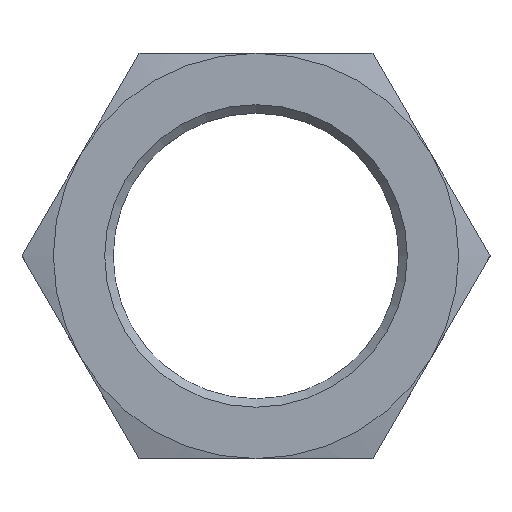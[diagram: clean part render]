
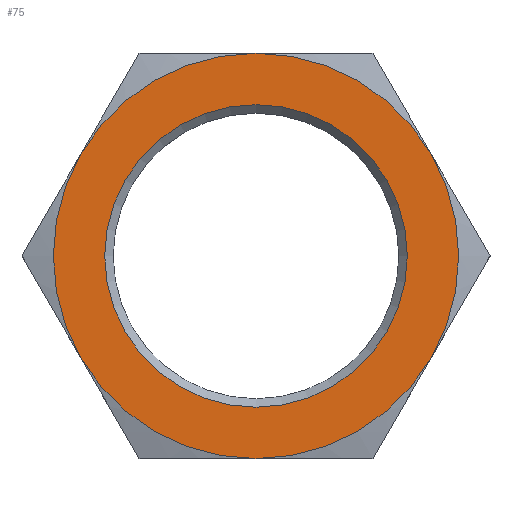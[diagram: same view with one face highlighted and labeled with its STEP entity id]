
A CAD part, top view. The second image highlights one B-rep face of the part: STEP entity #75.
In plain terms, the highlighted planar face has unit normal (0, 0, 1).
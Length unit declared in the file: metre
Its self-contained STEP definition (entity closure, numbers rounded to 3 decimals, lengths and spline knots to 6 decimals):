
#75 = ADVANCED_FACE( '', ( #156, #157 ), #158, .T. );
#156 = FACE_BOUND( '', #237, .T. );
#157 = FACE_OUTER_BOUND( '', #238, .T. );
#158 = PLANE( '', #239 );
#237 = EDGE_LOOP( '', ( #374 ) );
#238 = EDGE_LOOP( '', ( #375, #376, #377, #378, #379, #380 ) );
#239 = AXIS2_PLACEMENT_3D( '', #381, #382, #383 );
#374 = ORIENTED_EDGE( '', *, *, #475, .T. );
#375 = ORIENTED_EDGE( '', *, *, #462, .T. );
#376 = ORIENTED_EDGE( '', *, *, #480, .T. );
#377 = ORIENTED_EDGE( '', *, *, #500, .T. );
#378 = ORIENTED_EDGE( '', *, *, #452, .T. );
#379 = ORIENTED_EDGE( '', *, *, #501, .T. );
#380 = ORIENTED_EDGE( '', *, *, #493, .T. );
#381 = CARTESIAN_POINT( '', ( -0.020785, 0.012, 0.004 ) );
#382 = DIRECTION( '', ( 0., 0., 1. ) );
#383 = DIRECTION( '', ( 1., 0., 0. ) );
#452 = EDGE_CURVE( '', #519, #522, #524, .T. );
#462 = EDGE_CURVE( '', #542, #540, #543, .T. );
#475 = EDGE_CURVE( '', #560, #560, #561, .F. );
#480 = EDGE_CURVE( '', #540, #535, #567, .T. );
#493 = EDGE_CURVE( '', #583, #542, #587, .T. );
#500 = EDGE_CURVE( '', #535, #519, #595, .T. );
#501 = EDGE_CURVE( '', #522, #583, #596, .T. );
#519 = VERTEX_POINT( '', #616 );
#522 = VERTEX_POINT( '', #624 );
#524 = CIRCLE( '', #631, 0.012 );
#535 = VERTEX_POINT( '', #654 );
#540 = VERTEX_POINT( '', #669 );
#542 = VERTEX_POINT( '', #676 );
#543 = CIRCLE( '', #677, 0.012 );
#560 = VERTEX_POINT( '', #731 );
#561 = CIRCLE( '', #732, 0.008959 );
#567 = CIRCLE( '', #738, 0.012 );
#583 = VERTEX_POINT( '', #754 );
#587 = CIRCLE( '', #768, 0.012 );
#595 = CIRCLE( '', #786, 0.012 );
#596 = CIRCLE( '', #787, 0.012 );
#616 = CARTESIAN_POINT( '', ( -0.010392, 0.006, 0.004 ) );
#624 = CARTESIAN_POINT( '', ( -0.010392, -0.006, 0.004 ) );
#631 = AXIS2_PLACEMENT_3D( '', #838, #839, #840 );
#654 = CARTESIAN_POINT( '', ( 0., 0.012, 0.004 ) );
#669 = CARTESIAN_POINT( '', ( 0.010392, 0.006, 0.004 ) );
#676 = CARTESIAN_POINT( '', ( 0.010392, -0.006, 0.004 ) );
#677 = AXIS2_PLACEMENT_3D( '', #843, #844, #845 );
#731 = CARTESIAN_POINT( '', ( 0.008959, 0., 0.004 ) );
#732 = AXIS2_PLACEMENT_3D( '', #848, #849, #850 );
#738 = AXIS2_PLACEMENT_3D( '', #857, #858, #859 );
#754 = CARTESIAN_POINT( '', ( 0., -0.012, 0.004 ) );
#768 = AXIS2_PLACEMENT_3D( '', #881, #882, #883 );
#786 = AXIS2_PLACEMENT_3D( '', #884, #885, #886 );
#787 = AXIS2_PLACEMENT_3D( '', #887, #888, #889 );
#838 = CARTESIAN_POINT( '', ( 0., 0., 0.004 ) );
#839 = DIRECTION( '', ( 0., 0., 1. ) );
#840 = DIRECTION( '', ( 1., 0., 0. ) );
#843 = CARTESIAN_POINT( '', ( 0., 0., 0.004 ) );
#844 = DIRECTION( '', ( 0., 0., 1. ) );
#845 = DIRECTION( '', ( 1., 0., 0. ) );
#848 = CARTESIAN_POINT( '', ( 0., 0., 0.004 ) );
#849 = DIRECTION( '', ( 0., 0., 1. ) );
#850 = DIRECTION( '', ( 1., 0., 0. ) );
#857 = CARTESIAN_POINT( '', ( 0., 0., 0.004 ) );
#858 = DIRECTION( '', ( 0., 0., 1. ) );
#859 = DIRECTION( '', ( 1., 0., 0. ) );
#881 = CARTESIAN_POINT( '', ( 0., 0., 0.004 ) );
#882 = DIRECTION( '', ( 0., 0., 1. ) );
#883 = DIRECTION( '', ( 1., 0., 0. ) );
#884 = CARTESIAN_POINT( '', ( 0., 0., 0.004 ) );
#885 = DIRECTION( '', ( 0., 0., 1. ) );
#886 = DIRECTION( '', ( 1., 0., 0. ) );
#887 = CARTESIAN_POINT( '', ( 0., 0., 0.004 ) );
#888 = DIRECTION( '', ( 0., 0., 1. ) );
#889 = DIRECTION( '', ( 1., 0., 0. ) );
